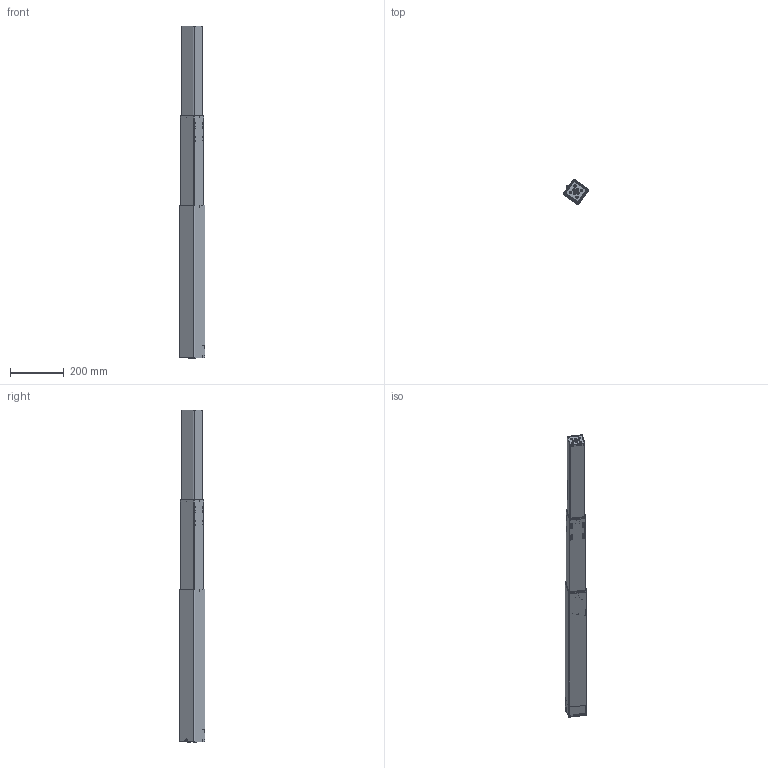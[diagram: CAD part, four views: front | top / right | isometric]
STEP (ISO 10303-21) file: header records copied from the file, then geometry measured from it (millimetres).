
FILE_DESCRIPTION (( 'STEP AP203' ), '1' );
FILE_NAME ('TL20SR.STEP', '2021-05-27T06:35:17', ( '' ), ( '' ), 'SwSTEP 2.0', 'SolidWorks 2015', '' );
FILE_SCHEMA (( 'CONFIG_CONTROL_DESIGN' ));
Length unit declared in the file: millimetre
Products named in the file (12): 三維零件圖-33903-356-公制螺絲-A; 三維零件圖-31405-065-耐磨墊片-C; 零件圖-33405-009-橡膠墊-0_箇砞<诀竟>; 三維零件圖-33105-084-外管防擺環; 40501-055-SR_默_; 三維零件圖-33410-049-橡膠墊圈-A; 三維零件圖-32317-2203-524-X-中層管烤漆; 三維零件圖-33105-083-中管防擺環; 三維零件圖-32317-2305-560-X-內層管烤漆; 三維零件圖-33903-357-16-A; TL20SR; 三維零件圖-332317-2102-526-X-外層管烤漆_箇砞<诀竟>
Assembly tree (29 placements, depth 2):
  TL20SR
    三維零件圖-332317-2102-526-X-外層管烤漆_箇砞<诀竟>
    三維零件圖-32317-2203-524-X-中層管烤漆
    三維零件圖-32317-2305-560-X-內層管烤漆
    三維零件圖-33105-083-中管防擺環
    三維零件圖-33105-084-外管防擺環
    三維零件圖-31405-065-耐磨墊片-C  x16
    零件圖-33405-009-橡膠墊-0_箇砞<诀竟>
    三維零件圖-33903-356-公制螺絲-A  x2
    三維零件圖-33410-049-橡膠墊圈-A  x2
    40501-055-SR_默_
    三維零件圖-33903-357-16-A  x2
Bounding box: 95.85 x 95.85 x 1240.5 mm (x, y, z)
Volume: 675513.4 mm3; surface area: 796584.4 mm2
Topology: 38 solids, 38 shells, 6022 faces, 14885 edges, 8740 vertices
Faces by surface type: cylinder 2431, plane 1755, torus 861, bspline 740, sphere 164, cone 71
Entity records: 65614 total; most frequent: CARTESIAN_POINT 17996, ORIENTED_EDGE 9712, DIRECTION 9688, EDGE_CURVE 4856, AXIS2_PLACEMENT_3D 3562, VERTEX_POINT 2976, VECTOR 2564, LINE 2564
